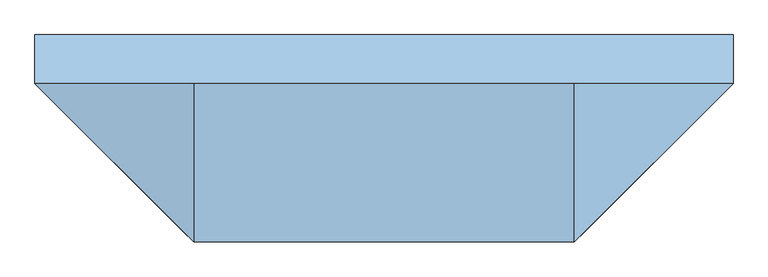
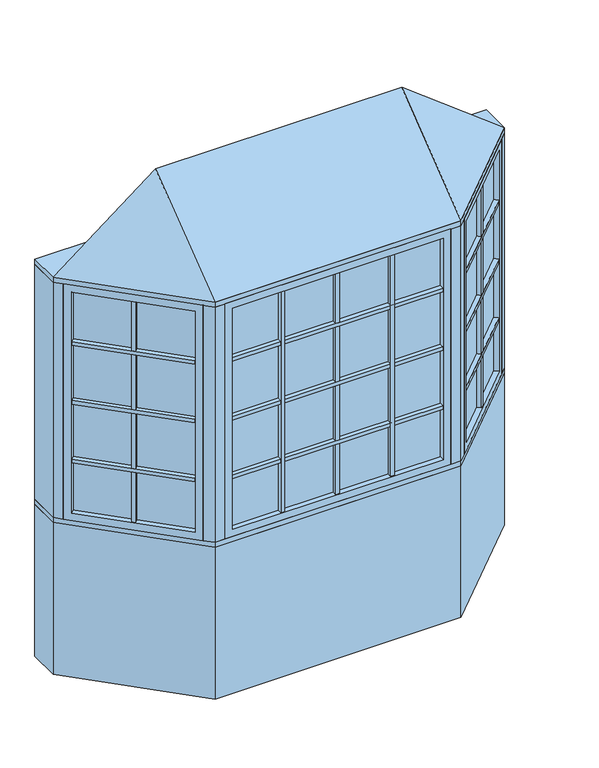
"""IFC4 building model written with IfcOpenShell, lengths in millimetres: window geometry, Pollard_Windows_Tudor Casement Bows and Bays : AML-BAY 45 AFR0512-12-600_GC."""

import ifcopenshell
import ifcopenshell.guid

model = None  # the IFC model being written
_history = None  # IfcOwnerHistory: only IFC2X3 demands one
_inside = {}  # id of a spatial element -> (the spatial element, [elements in it])
_under = {}  # id of a project, library or spatial element -> (it, [spatial elements below it])
_declared = {}  # id of a project -> (the project, [libraries it declares])
_typed = {}  # id of a type object -> (the type object, [elements of that type])
_made_of = {}  # id of a material, layer set ... -> (it, [elements and type objects made of it])


def new_model(schema):
    """Start an empty IFC model of exactly this schema.

    Asked for "IFC4X3", IfcOpenShell would pick the latest addendum, in which some entities
    have other attributes; the version numbers below select the first issue.
    IFC2X3 requires an IfcOwnerHistory on every rooted entity: one is made here for all.
    """
    global model, _history
    if schema == "IFC4X3":
        model = ifcopenshell.file(schema_version=(4, 3, 0, 0))
    else:
        model = ifcopenshell.file(schema=schema)
    _inside.clear()
    _under.clear()
    _declared.clear()
    _typed.clear()
    _made_of.clear()
    _history = None
    if model.schema == "IFC2X3":
        org = make("IfcOrganization", Name="unknown")
        user = make(
            "IfcPersonAndOrganization",
            ThePerson=make("IfcPerson", FamilyName="unknown"),
            TheOrganization=org,
        )
        app = make(
            "IfcApplication",
            ApplicationDeveloper=org,
            Version="unknown",
            ApplicationFullName="unknown",
            ApplicationIdentifier="unknown",
        )
        _history = make(
            "IfcOwnerHistory",
            OwningUser=user,
            OwningApplication=app,
            ChangeAction="ADDED",
            CreationDate=0,
        )
    return model


def make(cls, **values):
    """One entity of the class cls with the attributes given. An attribute that is None is left unset."""
    return model.create_entity(
        cls, **{name: value for name, value in values.items() if value is not None}
    )


def rooted(cls, **values):
    """An entity with a GlobalId (a new one), such as an element, a storey or a relation."""
    return make(cls, GlobalId=ifcopenshell.guid.new(), OwnerHistory=_history, **values)


def si_unit(unit_type, name, prefix=None):
    """IfcSIUnit, for example si_unit("LENGTHUNIT", "METRE", prefix="MILLI")."""
    return make("IfcSIUnit", UnitType=unit_type, Prefix=prefix, Name=name)


def assignment(units):
    """IfcUnitAssignment: the units of a project."""
    return None if units is None else make("IfcUnitAssignment", Units=units)


def point(xyz):
    """IfcCartesianPoint."""
    return None if xyz is None else make("IfcCartesianPoint", Coordinates=xyz)


def direction(xyz):
    """IfcDirection."""
    return None if xyz is None else make("IfcDirection", DirectionRatios=xyz)


def frame(location, z_axis=None, x_axis=None):
    """IfcAxis2Placement3D, a coordinate frame: its origin and axes. An axis left out is left unset."""
    return make(
        "IfcAxis2Placement3D",
        Location=point(location),
        Axis=direction(z_axis),
        RefDirection=direction(x_axis),
    )


def origin():
    """The frame at (0, 0, 0) with its axes left unset."""
    return frame((0.0, 0.0, 0.0))


def origin_with_axes():
    """The frame at (0, 0, 0) with the z axis (0, 0, 1) and the x axis (1, 0, 0) written out."""
    return frame((0.0, 0.0, 0.0), z_axis=(0.0, 0.0, 1.0), x_axis=(1.0, 0.0, 0.0))


def place(relative_to, where):
    """IfcLocalPlacement: puts the frame where relative to a parent placement (None: the world)."""
    return make(
        "IfcLocalPlacement", PlacementRelTo=relative_to, RelativePlacement=where
    )


def context(
    kind, dimensions, precision=None, world=None, true_north=None, identifier=None
):
    """IfcGeometricRepresentationContext, for example the 3D "Model" context."""
    return make(
        "IfcGeometricRepresentationContext",
        ContextIdentifier=identifier,
        ContextType=kind,
        CoordinateSpaceDimension=dimensions,
        Precision=precision,
        WorldCoordinateSystem=world,
        TrueNorth=true_north,
    )


def project(units=None, contexts=None):
    """IfcProject with its units and contexts."""
    return rooted(
        "IfcProject",
        Name="project",
        RepresentationContexts=contexts,
        UnitsInContext=assignment(units),
    )


def spatial(cls, under=None, at=None, **own):
    """A site, building, storey or space (cls), placed at a placement, below another one or the project."""
    s = rooted(cls, ObjectPlacement=at, **own)
    if under is not None:
        _under.setdefault(under.id(), (under, []))[1].append(s)
    return s


def polyline(points):
    """IfcPolyline through the points."""
    return make("IfcPolyline", Points=[point(p) for p in points])


def outline(outer, holes=None, kind="AREA"):
    """IfcArbitraryClosedProfileDef: a profile drawn as a closed curve; with holes, ...WithVoids."""
    if holes is None:
        return make("IfcArbitraryClosedProfileDef", ProfileType=kind, OuterCurve=outer)
    return make(
        "IfcArbitraryProfileDefWithVoids",
        ProfileType=kind,
        OuterCurve=outer,
        InnerCurves=holes,
    )


def extrude(swept, where, along, depth):
    """IfcExtrudedAreaSolid: the profile swept, set in the frame where, extruded along a direction by depth."""
    return make(
        "IfcExtrudedAreaSolid",
        SweptArea=swept,
        Position=where,
        ExtrudedDirection=direction(along),
        Depth=depth,
    )


def faces_of(points, faces, orient=None, outer=None):
    """IfcFace entities. A face is a list of loops; a loop is a list of indices into points, from 0.

    orient and outer hold one flag for each loop. By default every Orientation is true, the
    first loop of a face is its IfcFaceOuterBound and the others are IfcFaceBound.
    """
    made = []
    for i, loops in enumerate(faces):
        bounds = []
        for j, loop in enumerate(loops):
            is_outer = j == 0 if outer is None else outer[i][j]
            bounds.append(
                make(
                    "IfcFaceOuterBound" if is_outer else "IfcFaceBound",
                    Bound=make("IfcPolyLoop", Polygon=[points[k] for k in loop]),
                    Orientation=True if orient is None else orient[i][j],
                )
            )
        made.append(make("IfcFace", Bounds=bounds))
    return made


def faceted_brep(points, faces, orient=None, outer=None, voids=None):
    """IfcFacetedBrep: a solid bounded by flat faces; with voids (closed shells), ...WithVoids."""
    shared = [point(p) for p in points]
    hull = make("IfcClosedShell", CfsFaces=faces_of(shared, faces, orient, outer))
    if voids is None:
        return make("IfcFacetedBrep", Outer=hull)
    return make(
        "IfcFacetedBrepWithVoids",
        Outer=hull,
        Voids=[
            make(cls, CfsFaces=faces_of(shared, fs, o, b)) for cls, fs, o, b in voids
        ],
    )


def shape(context_of_items, identifier, shape_type, items):
    """IfcShapeRepresentation: the items that make up one representation, for example the "Body"."""
    return make(
        "IfcShapeRepresentation",
        ContextOfItems=context_of_items,
        RepresentationIdentifier=identifier,
        RepresentationType=shape_type,
        Items=items,
    )


def source(mapping_origin, context_of_items, identifier, shape_type, items):
    """IfcRepresentationMap: a shape defined once, which mapped items show again and again."""
    return make(
        "IfcRepresentationMap",
        MappingOrigin=mapping_origin,
        MappedRepresentation=shape(context_of_items, identifier, shape_type, items),
    )


def transform(
    local_origin,
    x_axis=None,
    y_axis=None,
    z_axis=None,
    scale=None,
    scale2=None,
    scale3=None,
    uniform=True,
):
    """IfcCartesianTransformationOperator3D, or its non-uniform kind. x_axis, y_axis, z_axis: its Axis1, 2, 3."""
    if uniform:
        return make(
            "IfcCartesianTransformationOperator3D",
            Axis1=direction(x_axis),
            Axis2=direction(y_axis),
            LocalOrigin=point(local_origin),
            Scale=scale,
            Axis3=direction(z_axis),
        )
    return make(
        "IfcCartesianTransformationOperator3DnonUniform",
        Axis1=direction(x_axis),
        Axis2=direction(y_axis),
        LocalOrigin=point(local_origin),
        Scale=scale,
        Axis3=direction(z_axis),
        Scale2=scale2,
        Scale3=scale3,
    )


def mapped(mapping_source, mapping_target):
    """IfcMappedItem: shows the shape of a source again, moved by a transform."""
    return make(
        "IfcMappedItem", MappingSource=mapping_source, MappingTarget=mapping_target
    )


def made_of(thing, what):
    """Note that an element or type object is made of a material, layer set ...; save() writes the relation."""
    if what is not None:
        _made_of.setdefault(what.id(), (what, []))[1].append(thing)
    return thing


def element(
    cls,
    number,
    at=None,
    inside=None,
    cuts=None,
    type_object=None,
    material=None,
    context=None,
    identifier="Body",
    shape_type=None,
    held_by="IfcProductDefinitionShape",
    body=None,
    shapes=None,
    **own,
):
    """One element of the class cls, such as IfcWall. Its Tag is "e" and its number.

    at: its placement. inside: the storey or other place that contains it. cuts: it is an
    opening in that element (IfcRelVoidsElement). A single representation is given by context,
    identifier, shape_type and body (its items); several are given by shapes. held_by: the class
    of the entity that holds the representations. save() writes the other relations.
    """
    e = rooted(cls, Tag="e%d" % number, ObjectPlacement=at, **own)
    if body is not None:
        shapes = [shape(context, identifier, shape_type, body)]
    if shapes is not None:
        e.Representation = make(held_by, Representations=shapes)
    if inside is not None:
        _inside.setdefault(inside.id(), (inside, []))[1].append(e)
    if cuts is not None:
        rooted(
            "IfcRelVoidsElement", RelatingBuildingElement=cuts, RelatedOpeningElement=e
        )
    if type_object is not None:
        _typed.setdefault(type_object.id(), (type_object, []))[1].append(e)
    return made_of(e, material)


def aggregate(whole, parts):
    """IfcRelAggregates: a whole, such as a stair, and the parts it consists of."""
    return rooted("IfcRelAggregates", RelatingObject=whole, RelatedObjects=parts)


def save(model, path):
    """Write the relations noted so far, then the file.

    IfcRelAggregates (storeys below a building ...), IfcRelContainedInSpatialStructure (elements
    in a storey), IfcRelDefinesByType, IfcRelAssociatesMaterial and IfcRelDeclares: one each for
    every whole, place, type object, material and project.
    """
    for whole, parts in _under.values():
        aggregate(whole, parts)
    for where, things in _inside.values():
        rooted(
            "IfcRelContainedInSpatialStructure",
            RelatedElements=things,
            RelatingStructure=where,
        )
    for kind, things in _typed.values():
        rooted("IfcRelDefinesByType", RelatedObjects=things, RelatingType=kind)
    for what, things in _made_of.values():
        rooted("IfcRelAssociatesMaterial", RelatedObjects=things, RelatingMaterial=what)
    for by, libraries in _declared.values():
        rooted("IfcRelDeclares", RelatingContext=by, RelatedDefinitions=libraries)
    model.write(path)


def window_c44c3662(model_context):
    return source(origin(), model_context, "Body", "SolidModel", [
        extrude(outline(polyline([(653.0114193, -506.9608753), (637.4550701, -491.4045261), (1015.116171, -113.7434252), (1030.6725202, -129.2997743), (653.0114193, -506.9608753)])), frame((0.0, 0.0, 1390.998), z_axis=(0.0, 0.0, 1.0), x_axis=(1.0, 0.0, 0.0)), (0.0, 0.0, 1.0), 18.0),
        extrude(outline(polyline([(633.8629677, -487.8124236), (618.3066185, -472.2560744), (995.9677194, -94.5949735), (1011.5240686, -110.1513227), (633.8629677, -487.8124236)])), frame((0.0, 0.0, 1390.998), z_axis=(0.0, 0.0, 1.0), x_axis=(1.0, 0.0, 0.0)), (0.0, 0.0, 1.0), 18.0),
        extrude(outline(polyline([(653.0114193, -506.9608753), (637.4550701, -491.4045261), (1015.116171, -113.7434252), (1030.6725202, -129.2997743), (653.0114193, -506.9608753)])), frame((0.0, 0.0, 1090.998), z_axis=(0.0, 0.0, 1.0), x_axis=(1.0, 0.0, 0.0)), (0.0, 0.0, 1.0), 18.0),
        extrude(outline(polyline([(633.8629677, -487.8124236), (618.3066185, -472.2560744), (995.9677194, -94.5949735), (1011.5240686, -110.1513227), (633.8629677, -487.8124236)])), frame((0.0, 0.0, 1090.998), z_axis=(0.0, 0.0, 1.0), x_axis=(1.0, 0.0, 0.0)), (0.0, 0.0, 1.0), 18.0),
        extrude(outline(polyline([(653.0114193, -506.9608753), (637.4550701, -491.4045261), (1015.116171, -113.7434252), (1030.6725202, -129.2997743), (653.0114193, -506.9608753)])), frame((0.0, 0.0, 1390.998), z_axis=(0.0, 0.0, 1.0), x_axis=(1.0, 0.0, 0.0)), (0.0, 0.0, 1.0), 18.0),
        extrude(outline(polyline([(633.8629677, -487.8124236), (618.3066185, -472.2560744), (995.9677194, -94.5949735), (1011.5240686, -110.1513227), (633.8629677, -487.8124236)])), frame((0.0, 0.0, 1390.998), z_axis=(0.0, 0.0, 1.0), x_axis=(1.0, 0.0, 0.0)), (0.0, 0.0, 1.0), 18.0),
        extrude(outline(polyline([(653.0114193, -506.9608753), (637.4550701, -491.4045261), (1015.116171, -113.7434252), (1030.6725202, -129.2997743), (653.0114193, -506.9608753)])), frame((0.0, 0.0, 1390.998), z_axis=(0.0, 0.0, 1.0), x_axis=(1.0, 0.0, 0.0)), (0.0, 0.0, 1.0), 18.0),
        extrude(outline(polyline([(633.8629677, -487.8124236), (618.3066185, -472.2560744), (995.9677194, -94.5949735), (1011.5240686, -110.1513227), (633.8629677, -487.8124236)])), frame((0.0, 0.0, 1390.998), z_axis=(0.0, 0.0, 1.0), x_axis=(1.0, 0.0, 0.0)), (0.0, 0.0, 1.0), 18.0),
        extrude(outline(polyline([(653.0114193, -506.9608753), (637.4550701, -491.4045261), (1015.116171, -113.7434252), (1030.6725202, -129.2997743), (653.0114193, -506.9608753)])), frame((0.0, 0.0, 1690.998), z_axis=(0.0, 0.0, 1.0), x_axis=(1.0, 0.0, 0.0)), (0.0, 0.0, 1.0), 18.0),
        extrude(outline(polyline([(633.8629677, -487.8124236), (618.3066185, -472.2560744), (995.9677194, -94.5949735), (1011.5240686, -110.1513227), (633.8629677, -487.8124236)])), frame((0.0, 0.0, 1690.998), z_axis=(0.0, 0.0, 1.0), x_axis=(1.0, 0.0, 0.0)), (0.0, 0.0, 1.0), 18.0),
        extrude(outline(polyline([(832.6495816, -296.2100146), (848.2059308, -311.7663638), (835.4780087, -324.4942858), (819.9216595, -308.9379366), (832.6495816, -296.2100146)])), frame((0.0, 0.0, 835.8628), z_axis=(0.0, 0.0, 1.0), x_axis=(1.0, 0.0, 0.0)), (0.0, 0.0, 1.0), 1128.2704),
        extrude(outline(polyline([(829.0574791, -292.6179121), (816.3295571, -305.3458342), (800.7732079, -289.789485), (813.50113, -277.0615629), (829.0574791, -292.6179121)])), frame((0.0, 0.0, 835.8628), z_axis=(0.0, 0.0, 1.0), x_axis=(1.0, 0.0, 0.0)), (0.0, 0.0, 1.0), 1128.2704),
        extrude(outline(polyline([(1024.0964271, -104.763169), (628.474814, -500.3847822), (624.8827115, -496.7926797), (1020.5043247, -101.1710666), (1024.0964271, -104.763169)])), frame((0.0, 0.0, 823.1628), z_axis=(0.0, 0.0, 1.0), x_axis=(1.0, 0.0, 0.0)), (0.0, 0.0, 1.0), 1153.6704),
        faceted_brep([(1015.116171, -113.7434252, 835.8628), (1033.0766833, -131.7039374, 835.8628), (1033.0766833, -131.7039374, 1964.1332), (1015.116171, -113.7434252, 1964.1332), (1020.5043247, -101.1710666, 823.1628), (1024.0964271, -104.763169, 823.1628), (1024.0964271, -104.763169, 1976.8332), (1020.5043247, -101.1710666, 1976.8332), (993.5635563, -92.1908105, 835.8628), (1011.5240686, -110.1513227, 835.8628), (1011.5240686, -110.1513227, 1964.1332), (993.5635563, -92.1908105, 1964.1332), (1058.4369265, -106.3436941, 799.998), (1018.9237996, -66.8305672, 799.998), (1018.9237996, -66.8305672, 1999.998), (1058.4369265, -106.3436941, 1999.998), (655.4155823, -509.3650383, 1964.1332), (637.4550701, -491.4045261, 1964.1332), (628.474814, -500.3847822, 1976.8332), (624.8827115, -496.7926797, 1976.8332), (633.8629677, -487.8124236, 1964.1332), (615.9024554, -469.8519114, 1964.1332), (590.5422121, -495.2121547, 1999.998), (630.0553391, -534.7252816, 1999.998), (655.4155823, -509.3650383, 835.8628), (637.4550701, -491.4045261, 835.8628), (628.474814, -500.3847822, 823.1628), (624.8827115, -496.7926797, 823.1628), (633.8629677, -487.8124236, 835.8628), (615.9024554, -469.8519114, 835.8628), (590.5422121, -495.2121547, 799.998), (630.0553391, -534.7252816, 799.998)], [[[0, 1, 2, 3]], [[4, 5, 6, 7]], [[8, 9, 10, 11]], [[12, 13, 14, 15]], [[3, 2, 16, 17]], [[7, 6, 18, 19]], [[11, 10, 20, 21]], [[15, 14, 22, 23]], [[17, 16, 24, 25]], [[19, 18, 26, 27]], [[21, 20, 28, 29]], [[23, 22, 30, 31]], [[25, 24, 1, 0]], [[5, 26, 18, 6], [3, 17, 25, 0]], [[27, 26, 5, 4]], [[7, 19, 27, 4], [9, 28, 20, 10]], [[29, 28, 9, 8]], [[13, 30, 22, 14], [11, 21, 29, 8]], [[31, 30, 13, 12]], [[15, 23, 31, 12], [1, 24, 16, 2]]]),
        extrude(outline(polyline([(274.2677, -544.6806207), (274.2677, -566.6806207), (256.2677, -566.6806207), (256.2677, -544.6806207), (274.2677, -544.6806207)])), frame((0.0, 0.0, 835.8628), z_axis=(0.0, 0.0, 1.0), x_axis=(1.0, 0.0, 0.0)), (0.0, 0.0, 1.0), 1128.2704),
        extrude(outline(polyline([(274.2677, -539.6006207), (256.2677, -539.6006207), (256.2677, -517.6006207), (274.2677, -517.6006207), (274.2677, -539.6006207)])), frame((0.0, 0.0, 835.8628), z_axis=(0.0, 0.0, 1.0), x_axis=(1.0, 0.0, 0.0)), (0.0, 0.0, 1.0), 1128.2704),
        extrude(outline(polyline([(-256.2677, -544.6806207), (-256.2677, -566.6806207), (-274.2677, -566.6806207), (-274.2677, -544.6806207), (-256.2677, -544.6806207)])), frame((0.0, 0.0, 835.8628), z_axis=(0.0, 0.0, 1.0), x_axis=(1.0, 0.0, 0.0)), (0.0, 0.0, 1.0), 1128.2704),
        extrude(outline(polyline([(-256.2677, -539.6006207), (-274.2677, -539.6006207), (-274.2677, -517.6006207), (-256.2677, -517.6006207), (-256.2677, -539.6006207)])), frame((0.0, 0.0, 835.8628), z_axis=(0.0, 0.0, 1.0), x_axis=(1.0, 0.0, 0.0)), (0.0, 0.0, 1.0), 1128.2704),
        extrude(outline(polyline([(-508.8352, -566.6806207), (-508.8352, -544.6806207), (508.8352, -544.6806207), (508.8352, -566.6806207), (-508.8352, -566.6806207)])), frame((0.0, 0.0, 1090.998), z_axis=(0.0, 0.0, 1.0), x_axis=(1.0, 0.0, 0.0)), (0.0, 0.0, 1.0), 18.0),
        extrude(outline(polyline([(-508.8352, -539.6006207), (-508.8352, -517.6006207), (508.8352, -517.6006207), (508.8352, -539.6006207), (-508.8352, -539.6006207)])), frame((0.0, 0.0, 1090.998), z_axis=(0.0, 0.0, 1.0), x_axis=(1.0, 0.0, 0.0)), (0.0, 0.0, 1.0), 18.0),
        extrude(outline(polyline([(-508.8352, -566.6806207), (-508.8352, -544.6806207), (508.8352, -544.6806207), (508.8352, -566.6806207), (-508.8352, -566.6806207)])), frame((0.0, 0.0, 1390.998), z_axis=(0.0, 0.0, 1.0), x_axis=(1.0, 0.0, 0.0)), (0.0, 0.0, 1.0), 18.0),
        extrude(outline(polyline([(-508.8352, -539.6006207), (-508.8352, -517.6006207), (508.8352, -517.6006207), (508.8352, -539.6006207), (-508.8352, -539.6006207)])), frame((0.0, 0.0, 1390.998), z_axis=(0.0, 0.0, 1.0), x_axis=(1.0, 0.0, 0.0)), (0.0, 0.0, 1.0), 18.0),
        extrude(outline(polyline([(-508.8352, -566.6806207), (-508.8352, -544.6806207), (508.8352, -544.6806207), (508.8352, -566.6806207), (-508.8352, -566.6806207)])), frame((0.0, 0.0, 1390.998), z_axis=(0.0, 0.0, 1.0), x_axis=(1.0, 0.0, 0.0)), (0.0, 0.0, 1.0), 18.0),
        extrude(outline(polyline([(-508.8352, -539.6006207), (-508.8352, -517.6006207), (508.8352, -517.6006207), (508.8352, -539.6006207), (-508.8352, -539.6006207)])), frame((0.0, 0.0, 1390.998), z_axis=(0.0, 0.0, 1.0), x_axis=(1.0, 0.0, 0.0)), (0.0, 0.0, 1.0), 18.0),
        extrude(outline(polyline([(-508.8352, -566.6806207), (-508.8352, -544.6806207), (508.8352, -544.6806207), (508.8352, -566.6806207), (-508.8352, -566.6806207)])), frame((0.0, 0.0, 1390.998), z_axis=(0.0, 0.0, 1.0), x_axis=(1.0, 0.0, 0.0)), (0.0, 0.0, 1.0), 18.0),
        extrude(outline(polyline([(-508.8352, -539.6006207), (-508.8352, -517.6006207), (508.8352, -517.6006207), (508.8352, -539.6006207), (-508.8352, -539.6006207)])), frame((0.0, 0.0, 1390.998), z_axis=(0.0, 0.0, 1.0), x_axis=(1.0, 0.0, 0.0)), (0.0, 0.0, 1.0), 18.0),
        extrude(outline(polyline([(-1030.6725202, -129.2997743), (-1015.116171, -113.7434252), (-637.4550701, -491.4045261), (-653.0114193, -506.9608753), (-1030.6725202, -129.2997743)])), frame((0.0, 0.0, 1090.998), z_axis=(0.0, 0.0, 1.0), x_axis=(1.0, 0.0, 0.0)), (0.0, 0.0, 1.0), 18.0),
        extrude(outline(polyline([(-1011.5240686, -110.1513227), (-995.9677194, -94.5949735), (-618.3066185, -472.2560744), (-633.8629677, -487.8124236), (-1011.5240686, -110.1513227)])), frame((0.0, 0.0, 1090.998), z_axis=(0.0, 0.0, 1.0), x_axis=(1.0, 0.0, 0.0)), (0.0, 0.0, 1.0), 18.0),
        extrude(outline(polyline([(-1030.6725202, -129.2997743), (-1015.116171, -113.7434252), (-637.4550701, -491.4045261), (-653.0114193, -506.9608753), (-1030.6725202, -129.2997743)])), frame((0.0, 0.0, 1390.998), z_axis=(0.0, 0.0, 1.0), x_axis=(1.0, 0.0, 0.0)), (0.0, 0.0, 1.0), 18.0),
        extrude(outline(polyline([(-1011.5240686, -110.1513227), (-995.9677194, -94.5949735), (-618.3066185, -472.2560744), (-633.8629677, -487.8124236), (-1011.5240686, -110.1513227)])), frame((0.0, 0.0, 1390.998), z_axis=(0.0, 0.0, 1.0), x_axis=(1.0, 0.0, 0.0)), (0.0, 0.0, 1.0), 18.0),
        extrude(outline(polyline([(-1030.6725202, -129.2997743), (-1015.116171, -113.7434252), (-637.4550701, -491.4045261), (-653.0114193, -506.9608753), (-1030.6725202, -129.2997743)])), frame((0.0, 0.0, 1390.998), z_axis=(0.0, 0.0, 1.0), x_axis=(1.0, 0.0, 0.0)), (0.0, 0.0, 1.0), 18.0),
        extrude(outline(polyline([(-1011.5240686, -110.1513227), (-995.9677194, -94.5949735), (-618.3066185, -472.2560744), (-633.8629677, -487.8124236), (-1011.5240686, -110.1513227)])), frame((0.0, 0.0, 1390.998), z_axis=(0.0, 0.0, 1.0), x_axis=(1.0, 0.0, 0.0)), (0.0, 0.0, 1.0), 18.0),
        extrude(outline(polyline([(-1030.6725202, -129.2997743), (-1015.116171, -113.7434252), (-637.4550701, -491.4045261), (-653.0114193, -506.9608753), (-1030.6725202, -129.2997743)])), frame((0.0, 0.0, 1390.998), z_axis=(0.0, 0.0, 1.0), x_axis=(1.0, 0.0, 0.0)), (0.0, 0.0, 1.0), 18.0),
        extrude(outline(polyline([(-1011.5240686, -110.1513227), (-995.9677194, -94.5949735), (-618.3066185, -472.2560744), (-633.8629677, -487.8124236), (-1011.5240686, -110.1513227)])), frame((0.0, 0.0, 1390.998), z_axis=(0.0, 0.0, 1.0), x_axis=(1.0, 0.0, 0.0)), (0.0, 0.0, 1.0), 18.0),
        extrude(outline(polyline([(-1030.6725202, -129.2997743), (-1015.116171, -113.7434252), (-637.4550701, -491.4045261), (-653.0114193, -506.9608753), (-1030.6725202, -129.2997743)])), frame((0.0, 0.0, 1690.998), z_axis=(0.0, 0.0, 1.0), x_axis=(1.0, 0.0, 0.0)), (0.0, 0.0, 1.0), 18.0),
        extrude(outline(polyline([(-1011.5240686, -110.1513227), (-995.9677194, -94.5949735), (-618.3066185, -472.2560744), (-633.8629677, -487.8124236), (-1011.5240686, -110.1513227)])), frame((0.0, 0.0, 1690.998), z_axis=(0.0, 0.0, 1.0), x_axis=(1.0, 0.0, 0.0)), (0.0, 0.0, 1.0), 18.0),
        extrude(outline(polyline([(-508.8352, -566.6806207), (-508.8352, -544.6806207), (508.8352, -544.6806207), (508.8352, -566.6806207), (-508.8352, -566.6806207)])), frame((0.0, 0.0, 1690.998), z_axis=(0.0, 0.0, 1.0), x_axis=(1.0, 0.0, 0.0)), (0.0, 0.0, 1.0), 18.0),
        extrude(outline(polyline([(-508.8352, -539.6006207), (-508.8352, -517.6006207), (508.8352, -517.6006207), (508.8352, -539.6006207), (-508.8352, -539.6006207)])), frame((0.0, 0.0, 1690.998), z_axis=(0.0, 0.0, 1.0), x_axis=(1.0, 0.0, 0.0)), (0.0, 0.0, 1.0), 18.0),
        extrude(outline(polyline([(-819.9216595, -308.9379366), (-835.4780087, -324.4942858), (-848.2059308, -311.7663638), (-832.6495816, -296.2100146), (-819.9216595, -308.9379366)])), frame((0.0, 0.0, 835.8628), z_axis=(0.0, 0.0, 1.0), x_axis=(1.0, 0.0, 0.0)), (0.0, 0.0, 1.0), 1128.2704),
        extrude(outline(polyline([(-816.3295571, -305.3458342), (-829.0574791, -292.6179121), (-813.50113, -277.0615629), (-800.7732079, -289.789485), (-816.3295571, -305.3458342)])), frame((0.0, 0.0, 835.8628), z_axis=(0.0, 0.0, 1.0), x_axis=(1.0, 0.0, 0.0)), (0.0, 0.0, 1.0), 1128.2704),
        extrude(outline(polyline([(9.0, -544.6806207), (9.0, -566.6806207), (-9.0, -566.6806207), (-9.0, -544.6806207), (9.0, -544.6806207)])), frame((0.0, 0.0, 835.8628), z_axis=(0.0, 0.0, 1.0), x_axis=(1.0, 0.0, 0.0)), (0.0, 0.0, 1.0), 1128.2704),
        extrude(outline(polyline([(9.0, -539.6006207), (-9.0, -539.6006207), (-9.0, -517.6006207), (9.0, -517.6006207), (9.0, -539.6006207)])), frame((0.0, 0.0, 835.8628), z_axis=(0.0, 0.0, 1.0), x_axis=(1.0, 0.0, 0.0)), (0.0, 0.0, 1.0), 1128.2704),
        extrude(outline(polyline([(-628.474814, -500.3847822), (-1024.0964271, -104.763169), (-1020.5043247, -101.1710666), (-624.8827115, -496.7926797), (-628.474814, -500.3847822)])), frame((0.0, 0.0, 823.1628), z_axis=(0.0, 0.0, 1.0), x_axis=(1.0, 0.0, 0.0)), (0.0, 0.0, 1.0), 1153.6704),
        faceted_brep([(-633.8629677, -487.8124236, 1964.1332), (-615.9024554, -469.8519114, 1964.1332), (-615.9024554, -469.8519114, 835.8628), (-633.8629677, -487.8124236, 835.8628), (-628.474814, -500.3847822, 1976.8332), (-624.8827115, -496.7926797, 1976.8332), (-624.8827115, -496.7926797, 823.1628), (-628.474814, -500.3847822, 823.1628), (-655.4155823, -509.3650383, 1964.1332), (-637.4550701, -491.4045261, 1964.1332), (-637.4550701, -491.4045261, 835.8628), (-655.4155823, -509.3650383, 835.8628), (-590.5422121, -495.2121547, 1999.998), (-630.0553391, -534.7252816, 1999.998), (-630.0553391, -534.7252816, 799.998), (-590.5422121, -495.2121547, 799.998), (-993.5635563, -92.1908105, 835.8628), (-1011.5240686, -110.1513227, 835.8628), (-1020.5043247, -101.1710666, 823.1628), (-1024.0964271, -104.763169, 823.1628), (-1015.116171, -113.7434252, 835.8628), (-1033.0766833, -131.7039374, 835.8628), (-1058.4369265, -106.3436941, 799.998), (-1018.9237996, -66.8305672, 799.998), (-993.5635563, -92.1908105, 1964.1332), (-1011.5240686, -110.1513227, 1964.1332), (-1020.5043247, -101.1710666, 1976.8332), (-1024.0964271, -104.763169, 1976.8332), (-1015.116171, -113.7434252, 1964.1332), (-1033.0766833, -131.7039374, 1964.1332), (-1058.4369265, -106.3436941, 1999.998), (-1018.9237996, -66.8305672, 1999.998)], [[[0, 1, 2, 3]], [[4, 5, 6, 7]], [[8, 9, 10, 11]], [[12, 13, 14, 15]], [[3, 2, 16, 17]], [[7, 6, 18, 19]], [[11, 10, 20, 21]], [[15, 14, 22, 23]], [[17, 16, 24, 25]], [[19, 18, 26, 27]], [[21, 20, 28, 29]], [[23, 22, 30, 31]], [[15, 23, 31, 12], [1, 24, 16, 2]], [[25, 24, 1, 0]], [[5, 26, 18, 6], [3, 17, 25, 0]], [[27, 26, 5, 4]], [[7, 19, 27, 4], [9, 28, 20, 10]], [[29, 28, 9, 8]], [[13, 30, 22, 14], [11, 21, 29, 8]], [[31, 30, 13, 12]]]),
        extrude(outline(polyline([(521.5352, -544.6806207), (-521.5352, -544.6806207), (-521.5352, -539.6006207), (521.5352, -539.6006207), (521.5352, -544.6806207)])), frame((0.0, 0.0, 823.1628), z_axis=(0.0, 0.0, 1.0), x_axis=(1.0, 0.0, 0.0)), (0.0, 0.0, 1.0), 1153.6704),
        faceted_brep([(508.8352, -544.6806207, 835.8628), (508.8352, -570.0806207, 835.8628), (508.8352, -570.0806207, 1964.1332), (508.8352, -544.6806207, 1964.1332), (521.5352, -539.6006207, 823.1628), (521.5352, -544.6806207, 823.1628), (521.5352, -544.6806207, 1976.8332), (521.5352, -539.6006207, 1976.8332), (508.8352, -514.2006207, 835.8628), (508.8352, -539.6006207, 835.8628), (508.8352, -539.6006207, 1964.1332), (508.8352, -514.2006207, 1964.1332), (544.7, -570.0806207, 799.998), (544.7, -514.2006207, 799.998), (544.7, -514.2006207, 1999.998), (544.7, -570.0806207, 1999.998), (-508.8352, -570.0806207, 1964.1332), (-508.8352, -544.6806207, 1964.1332), (-521.5352, -544.6806207, 1976.8332), (-521.5352, -539.6006207, 1976.8332), (-508.8352, -539.6006207, 1964.1332), (-508.8352, -514.2006207, 1964.1332), (-544.7, -514.2006207, 1999.998), (-544.7, -570.0806207, 1999.998), (-508.8352, -570.0806207, 835.8628), (-508.8352, -544.6806207, 835.8628), (-521.5352, -544.6806207, 823.1628), (-521.5352, -539.6006207, 823.1628), (-508.8352, -539.6006207, 835.8628), (-508.8352, -514.2006207, 835.8628), (-544.7, -514.2006207, 799.998), (-544.7, -570.0806207, 799.998)], [[[0, 1, 2, 3]], [[4, 5, 6, 7]], [[8, 9, 10, 11]], [[12, 13, 14, 15]], [[3, 2, 16, 17]], [[7, 6, 18, 19]], [[11, 10, 20, 21]], [[15, 14, 22, 23]], [[17, 16, 24, 25]], [[19, 18, 26, 27]], [[21, 20, 28, 29]], [[23, 22, 30, 31]], [[15, 23, 31, 12], [1, 24, 16, 2]], [[25, 24, 1, 0]], [[5, 26, 18, 6], [3, 17, 25, 0]], [[27, 26, 5, 4]], [[7, 19, 27, 4], [9, 28, 20, 10]], [[29, 28, 9, 8]], [[13, 30, 22, 14], [11, 21, 29, 8]], [[31, 30, 13, 12]]]),
        faceted_brep([(1090.0, -74.7806207, 2025.398), (594.7, -570.0806207, 2025.398), (-594.7, -570.0806207, 2025.398), (-1090.0, -74.7806207, 2025.398), (-594.7, -74.7806207, 2406.398), (594.7, -74.7806207, 2406.398)], [[[0, 1, 2, 3]], [[3, 2, 4]], [[2, 1, 5, 4]], [[1, 0, 5]], [[0, 3, 4, 5]]]),
        extrude(outline(polyline([(-1090.0, 77.6193793), (1090.0, 77.6193793), (1090.0, -74.7806207), (594.7, -570.0806207), (-594.7, -570.0806207), (-1090.0, -74.7806207), (-1090.0, 77.6193793)])), frame((0.0, 0.0, 1999.998), z_axis=(0.0, 0.0, 1.0), x_axis=(1.0, 0.0, 0.0)), (0.0, 0.0, 1.0), 25.4),
        extrude(outline(polyline([(-1090.0, -74.7806207), (-1090.0, 77.6193793), (-1026.8738531, 77.6193793), (-1026.8738531, -74.7806207), (-1058.4369265, -106.3436941), (-1090.0, -74.7806207)])), frame((0.0, 0.0, 799.998), z_axis=(0.0, 0.0, 1.0), x_axis=(1.0, 0.0, 0.0)), (0.0, 0.0, 1.0), 1200.0),
        extrude(outline(polyline([(1090.0, 77.6193793), (1090.0, -74.7806207), (1058.4369265, -106.3436941), (1026.8738531, -74.7806207), (1026.8738531, 77.6193793), (1090.0, 77.6193793)])), frame((0.0, 0.0, 799.998), z_axis=(0.0, 0.0, 1.0), x_axis=(1.0, 0.0, 0.0)), (0.0, 0.0, 1.0), 1200.0),
        extrude(outline(polyline([(594.7, -570.0806207), (544.7, -570.0806207), (544.7, -520.0806207), (573.9893219, -520.0806207), (594.7, -499.3699425), (630.0553391, -534.7252816), (594.7, -570.0806207)])), frame((0.0, 0.0, 799.998), z_axis=(0.0, 0.0, 1.0), x_axis=(1.0, 0.0, 0.0)), (0.0, 0.0, 1.0), 1200.0),
        extrude(outline(polyline([(-594.7, -570.0806207), (-630.0553391, -534.7252816), (-594.7, -499.3699425), (-573.9893219, -520.0806207), (-544.7, -520.0806207), (-544.7, -570.0806207), (-594.7, -570.0806207)])), frame((0.0, 0.0, 799.998), z_axis=(0.0, 0.0, 1.0), x_axis=(1.0, 0.0, 0.0)), (0.0, 0.0, 1.0), 1200.0),
        extrude(outline(polyline([(-594.7, -570.0806207), (-1090.0, -74.7806207), (-1090.0, 77.6193793), (-1026.8738531, 77.6193793), (-531.5738531, -417.6806207), (531.5738531, -417.6806207), (1026.8738531, 77.6193793), (1090.0, 77.6193793), (1090.0, -74.7806207), (594.7, -570.0806207), (-594.7, -570.0806207)])), frame((0.0, 0.0, 774.598), z_axis=(0.0, 0.0, 1.0), x_axis=(1.0, 0.0, 0.0)), (0.0, 0.0, 1.0), 25.4),
        extrude(outline(polyline([(-1090.0, -74.7806207), (-1090.0, 77.6193793), (-1026.8738531, 77.6193793), (-531.5738531, -417.6806207), (531.5738531, -417.6806207), (1026.8738531, 77.6193793), (1090.0, 77.6193793), (1090.0, -74.7806207), (594.7, -570.0806207), (-594.7, -570.0806207), (-1090.0, -74.7806207)])), origin_with_axes(), (0.0, 0.0, 1.0), 774.598),
    ])


if __name__ == "__main__":
    model = new_model("IFC4")
    model_context = context("Model", 3, world=origin())
    ifc_project = project(units=[si_unit("LENGTHUNIT", "METRE", prefix="MILLI")], contexts=[model_context])
    site = spatial("IfcSite", under=ifc_project)
    building = spatial("IfcBuilding", under=site)
    placement = place(None, origin())
    window_shape = window_c44c3662(model_context)
    element("IfcWindow", 1, ObjectType="Pollard_Windows_Tudor Casement Bows and Bays : AML-BAY 45 AFR0512-12-600_GC", at=placement, inside=building, context=model_context, shape_type="MappedRepresentation", body=[
        mapped(window_shape, transform((0.0, 0.0, 0.0), x_axis=(1.0, 0.0, 0.0), y_axis=(0.0, 1.0, 0.0), z_axis=(0.0, 0.0, 1.0))),
    ])
    save(model, "model.ifc")
